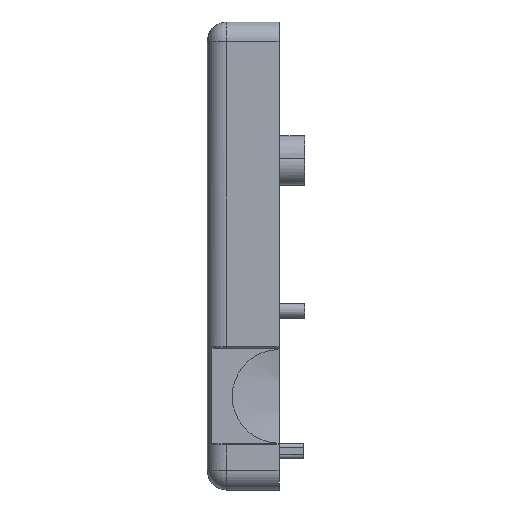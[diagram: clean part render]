
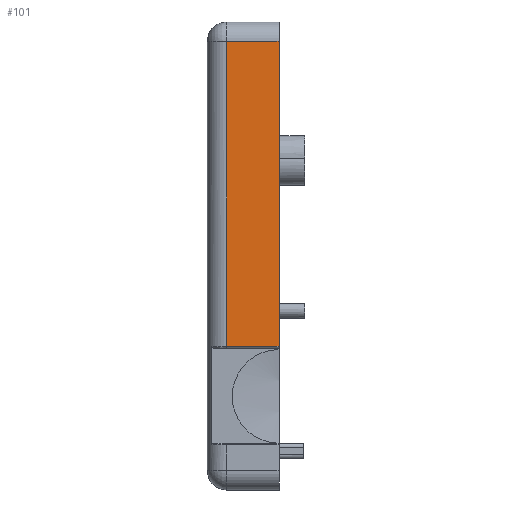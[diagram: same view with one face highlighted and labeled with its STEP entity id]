
A CAD part, left-side view. The second image highlights one B-rep face of the part: STEP entity #101.
In plain terms, the highlighted planar face has unit normal (-1, 0, 0).
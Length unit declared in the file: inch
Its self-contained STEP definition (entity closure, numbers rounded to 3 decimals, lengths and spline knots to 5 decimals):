
#92 = VERTEX_POINT ( 'NONE', #2216 ) ;
#95 = ORIENTED_EDGE ( 'NONE', *, *, #250, .T. ) ;
#96 = VERTEX_POINT ( 'NONE', #2074 ) ;
#97 = EDGE_LOOP ( 'NONE', ( #253, #102, #104, #95 ) ) ;
#100 = EDGE_CURVE ( 'NONE', #233, #96, #2208, .T. ) ;
#101 = ADVANCED_FACE ( 'NONE', ( #2067 ), #2065, .F. ) ;
#102 = ORIENTED_EDGE ( 'NONE', *, *, #232, .T. ) ;
#104 = ORIENTED_EDGE ( 'NONE', *, *, #105, .T. ) ;
#105 = EDGE_CURVE ( 'NONE', #92, #247, #2068, .T. ) ;
#232 = EDGE_CURVE ( 'NONE', #96, #92, #2480, .T. ) ;
#233 = VERTEX_POINT ( 'NONE', #2365 ) ;
#247 = VERTEX_POINT ( 'NONE', #2283 ) ;
#250 = EDGE_CURVE ( 'NONE', #247, #233, #2271, .T. ) ;
#253 = ORIENTED_EDGE ( 'NONE', *, *, #100, .T. ) ;
#2062 = DIRECTION ( 'NONE',  ( 0., 0., -1. ) ) ;
#2063 = DIRECTION ( 'NONE',  ( 1., 0., 0. ) ) ;
#2064 = CARTESIAN_POINT ( 'NONE',  ( -2.12, 0.45, -1.5 ) ) ;
#2065 = PLANE ( 'NONE',  #2077 ) ;
#2067 = FACE_OUTER_BOUND ( 'NONE', #97, .T. ) ;
#2068 = LINE ( 'NONE', #2064, #2114 ) ;
#2074 = CARTESIAN_POINT ( 'NONE',  ( -2.12, 0.785, -0.58 ) ) ;
#2075 = DIRECTION ( 'NONE',  ( 0., 0., -1. ) ) ;
#2076 = CARTESIAN_POINT ( 'NONE',  ( -2.12, 0.785, -1.5 ) ) ;
#2077 = AXIS2_PLACEMENT_3D ( 'NONE', #2078, #2063, #2062 ) ;
#2078 = CARTESIAN_POINT ( 'NONE',  ( -2.12, 0.91, -1.5 ) ) ;
#2113 = DIRECTION ( 'NONE',  ( 0., 0., 1. ) ) ;
#2114 = VECTOR ( 'NONE', #2113, 39.37008 ) ;
#2208 = LINE ( 'NONE', #2076, #2210 ) ;
#2210 = VECTOR ( 'NONE', #2075, 39.37008 ) ;
#2216 = CARTESIAN_POINT ( 'NONE',  ( -2.12, 0.45, -0.58 ) ) ;
#2269 = DIRECTION ( 'NONE',  ( 0., 1., 0. ) ) ;
#2270 = CARTESIAN_POINT ( 'NONE',  ( -2.12, 0.91, 1.375 ) ) ;
#2271 = LINE ( 'NONE', #2270, #2320 ) ;
#2283 = CARTESIAN_POINT ( 'NONE',  ( -2.12, 0.45, 1.375 ) ) ;
#2320 = VECTOR ( 'NONE', #2269, 39.37008 ) ;
#2365 = CARTESIAN_POINT ( 'NONE',  ( -2.12, 0.785, 1.375 ) ) ;
#2477 = DIRECTION ( 'NONE',  ( 0., -1., 0. ) ) ;
#2478 = VECTOR ( 'NONE', #2477, 39.37008 ) ;
#2479 = CARTESIAN_POINT ( 'NONE',  ( -2.12, 0.91, -0.58 ) ) ;
#2480 = LINE ( 'NONE', #2479, #2478 ) ;
